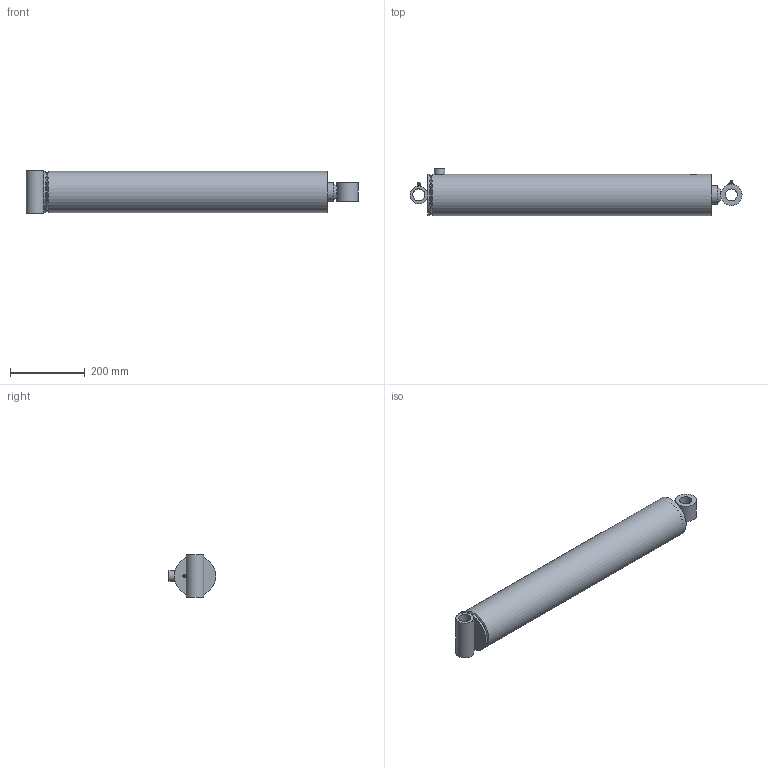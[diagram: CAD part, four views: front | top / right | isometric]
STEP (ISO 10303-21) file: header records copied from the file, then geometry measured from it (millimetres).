
FILE_DESCRIPTION((''),'2;1');
FILE_NAME('\\SRVR-ENG\EngSales\PMC-5624.stp','2011-01-25T13:15:42',('KneiflD'),(''),'Autodesk Inventor 2011','Autodesk Inventor 2011','');
FILE_SCHEMA(('AUTOMOTIVE_DESIGN { 1 0 10303 214 1 1 1 1 }'));
Length unit declared in the file: inch
Products named in the file (23): PMC-5624V; 061900039V; 051900064V; 161900081V; 200014404V; 210600086V; 021100301V; 011100871V; 210600347V; 071900019; 081900451V; 220000212V; 240004008V; 240034342V; 240000342V; 240000026V; 240061342V; 240020009V; 230001400V; 200018003V; 270010002V; 270010020V; 250001329V
Assembly tree (25 placements, depth 3):
  PMC-5624V
    061900039V
      051900064V
      161900081V
      200014404V
      210600086V
    021100301V
      011100871V
      210600347V
    071900019
    081900451V
    220000212V
    240004008V
    240034342V  x2
    240000342V  x2
    240000026V
    240061342V
    240020009V
    230001400V
    200018003V  x2
    270010002V
    270010020V
    250001329V
Bounding box: 890.59 x 127 x 114.3 mm (x, y, z)
Volume: 3666065.7 mm3; surface area: 847904.7 mm2
Topology: 23 solids, 23 shells, 258 faces, 527 edges, 319 vertices
Faces by surface type: plane 114, cylinder 65, cone 39, torus 35, bspline 3, sphere 2
Full cylindrical faces by diameter (mm): 1.524 x2, 3.175 x2, 6.074 x1, 8.839 x2, 9.08 x1, 12.7 x1, 17.463 x1, 17.475 x1, 23.813 x1, 28.575 x1, 29.972 x1, 31.699 x1, 31.826 x1, 32.258 x1, 32.385 x1, 34.315 x1, 47.625 x1, 50.8 x2, 50.876 x2, 51.752 x1, 54.61 x1, 57.15 x1, 58.725 x2, 59.373 x1, 60.325 x1, 60.452 x1, 63.5 x1, 80.95 x1, 91.592 x1, 92.151 x1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
Entity records: 6719 total; most frequent: CARTESIAN_POINT 1546, DIRECTION 1047, ORIENTED_EDGE 684, AXIS2_PLACEMENT_3D 478, EDGE_LOOP 408, EDGE_CURVE 342, VERTEX_POINT 276, FACE_OUTER_BOUND 236
